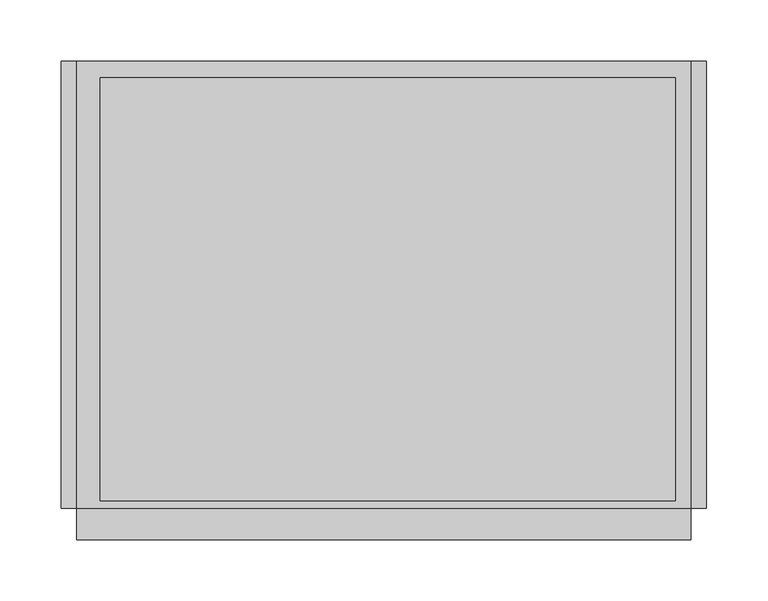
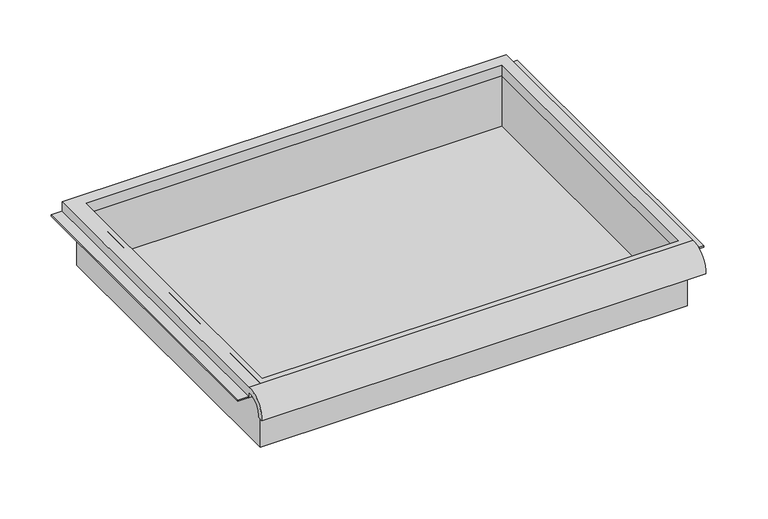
"""IFC4 building model written with IfcOpenShell, lengths in millimetres: furniture geometry."""

from ifc_helpers import new_model, si_unit, frame, origin, place, context, project, spatial, polyline, circle_curve, faceted_brep, source, transform, mapped, element, save
from ifc_brep_helpers import plane_surface, cylinder_surface, revolved_surface, advanced_brep


def furniture_e646b788(model_context):
    return source(origin(), model_context, "Body", "SolidModel", [
        advanced_brep(
        [(263.7474999, -195.297482, 937.4199118), (263.7474999, -188.9125, 937.4199118), (263.7474999, -169.8625, 955.681385), (263.7474999, -169.8625, 949.3313846), (263.7474999, 195.2625, 949.3313846), (263.7474999, 195.2625, 962.031385), (263.7474999, -169.8625, 962.031385), (-237.9025001, -195.297482, 937.4199118), (-237.9025001, -169.8625, 962.031385), (-237.9025001, 195.2625, 962.031385), (-237.9025001, 195.2625, 949.3313846), (-237.9025001, -169.8625, 949.3313846), (-237.9025001, -169.8625, 955.681385), (-237.9025001, -188.9125, 937.4199118), (251.0474878, 181.9275, 949.3313846), (-218.8095642, 181.9275, 949.3313846), (-218.8095642, -163.5125, 949.3313846), (251.0474878, -163.5125, 949.3313846), (-218.8095642, 181.9275, 962.031385), (251.0474878, 181.9275, 962.031385), (251.0474878, -163.5125, 962.031385), (-218.8095642, -163.5125, 962.031385)],
        [
            (0, 1),
            (1, 2, circle_curve(frame((263.7474999, -172.3404634, 939.1993222), z_axis=(-1.0, 0.0, 0.0), x_axis=(0.0, 1.0, 0.0)), 16.6672942)),
            (2, 3),
            (3, 4),
            (4, 5),
            (5, 6),
            (6, 0, circle_curve(frame((263.7474999, -172.4601678, 939.2672122), z_axis=(1.0, 0.0, 0.0), x_axis=(0.0, 1.0, 0.0)), 22.9119061)),
            (7, 8, circle_curve(frame((-237.9025001, -172.4601678, 939.2672122), z_axis=(-1.0, 0.0, 0.0), x_axis=(0.0, 1.0, 0.0)), 22.9119061)),
            (8, 9),
            (9, 10),
            (10, 11),
            (11, 12),
            (12, 13, circle_curve(frame((-237.9025001, -172.3404634, 939.1993222), z_axis=(1.0, 0.0, 0.0), x_axis=(0.0, 1.0, 0.0)), 16.6672942)),
            (13, 7),
            (0, 7),
            (13, 1),
            (12, 2),
            (11, 3),
            (10, 4),
            (14, 15),
            (15, 16),
            (16, 17),
            (17, 14),
            (9, 5),
            (8, 6),
            (18, 19),
            (19, 20),
            (20, 21),
            (21, 18),
            (14, 19),
            (18, 15),
            (21, 16),
            (20, 17),
        ],
        [
            plane_surface(frame((263.7474999, -195.297482, 937.4199118), z_axis=(1.0, 0.0, 0.0), x_axis=(0.0, 1.0, 0.0))),
            plane_surface(frame((-237.9025001, -195.297482, 937.4199118), z_axis=(-1.0, 0.0, 0.0), x_axis=(0.0, -1.0, 0.0))),
            plane_surface(frame((263.7474999, -195.297482, 937.4199118), z_axis=(0.0, 0.0, -1.0), x_axis=(-1.0, 0.0, 0.0))),
            revolved_surface(polyline([(-237.9025001, -155.67316920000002, 939.1993222), (263.7474999, -155.67316920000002, 939.1993222)]), (-237.9025001, -172.3404634, 939.1993222), (-1.0, 0.0, 0.0)),
            plane_surface(frame((263.7474999, -169.8625, 955.681385), z_axis=(0.0, -1.0, 0.0), x_axis=(-1.0, 0.0, 0.0))),
            plane_surface(frame((263.7474999, -169.8625, 949.3313846), z_axis=(0.0, 0.0, -1.0), x_axis=(-1.0, 0.0, 0.0))),
            plane_surface(frame((263.7474999, 195.2625, 949.3313846), z_axis=(0.0, 1.0, 0.0), x_axis=(-1.0, 0.0, 0.0))),
            plane_surface(frame((263.7474999, 195.2625, 962.031385), z_axis=(0.0, 0.0, 1.0), x_axis=(-1.0, 0.0, 0.0))),
            cylinder_surface(frame((-237.9025001, -172.4601678, 939.2672122), z_axis=(1.0, 0.0, 0.0), x_axis=(0.0, 1.0, 0.0)), 22.9119061),
            plane_surface(frame((251.0474878, 181.9275, 962.031385), z_axis=(0.0, -1.0, 0.0), x_axis=(0.0, 0.0, -1.0))),
            plane_surface(frame((-218.8095642, 181.9275, 962.031385), z_axis=(1.0, 0.0, 0.0), x_axis=(0.0, 0.0, -1.0))),
            plane_surface(frame((-218.8095642, -163.5125, 962.031385), z_axis=(0.0, 1.0, 0.0), x_axis=(0.0, 0.0, -1.0))),
            plane_surface(frame((251.0474878, -163.5125, 962.031385), z_axis=(-1.0, 0.0, 0.0), x_axis=(0.0, 0.0, -1.0))),
        ],
        [
            (0, [[1, 2, 3, 4, 5, 6, 7]]),
            (1, [[8, 9, 10, 11, 12, 13, 14]]),
            (2, [[-1, 15, -14, 16]]),
            (3, [[-2, -16, -13, 17]]),
            (4, [[-3, -17, -12, 18]]),
            (5, [[-4, -18, -11, 19], [20, 21, 22, 23]]),
            (6, [[-5, -19, -10, 24]]),
            (7, [[-6, -24, -9, 25], [26, 27, 28, 29]]),
            (8, [[-7, -25, -8, -15]]),
            (9, [[30, -26, 31, -20]]),
            (10, [[-31, -29, 32, -21]]),
            (11, [[-32, -28, 33, -22]]),
            (12, [[-30, -23, -33, -27]]),
        ],
    ),
        faceted_brep([(-225.2025001, -169.8625, 885.831385), (257.3974878, -169.8625, 885.831385), (257.3974878, -169.8625, 962.031385), (-225.2025001, -169.8625, 962.031385), (-225.2025001, 188.9125, 885.831385), (-225.2025001, 188.9125, 962.031385), (257.3974878, 188.9125, 962.031385), (257.3974878, 188.9125, 885.831385), (-218.8095642, 181.9275, 962.031385), (251.0474878, 181.9275, 962.031385), (251.0474878, -163.5125, 962.031385), (-218.8095642, -163.5125, 962.031385), (251.0474878, 181.9275, 889.006385), (-218.8095642, 181.9275, 889.006385), (-218.8095642, -163.5125, 889.006385), (251.0474878, -163.5125, 889.006385)], [[[0, 1, 2, 3]], [[4, 5, 6, 7]], [[1, 0, 4, 7]], [[2, 1, 7, 6]], [[3, 2, 6, 5], [8, 9, 10, 11]], [[0, 3, 5, 4]], [[12, 13, 14, 15]], [[13, 12, 9, 8]], [[14, 13, 8, 11]], [[15, 14, 11, 10]], [[12, 15, 10, 9]]]),
        faceted_brep([(-250.6025001, 195.2625, 949.3313846), (-250.6025001, 195.2625, 950.9188846), (-231.5525001, 195.2625, 950.9188846), (-231.5525001, 195.2625, 949.3313846), (-250.6025001, -169.8625, 949.3313846), (-231.5525001, -169.8625, 949.3313846), (-231.5525001, -169.8625, 950.9188846), (-250.6025001, -169.8625, 950.9188846)], [[[0, 1, 2, 3]], [[4, 5, 6, 7]], [[1, 0, 4, 7]], [[2, 1, 7, 6]], [[3, 2, 6, 5]], [[0, 3, 5, 4]]]),
        faceted_brep([(276.4474999, 195.2625, 949.3313846), (263.7474999, 195.2625, 949.3313846), (263.7474999, 195.2625, 950.9188846), (276.4474999, 195.2625, 950.9188846), (276.4474999, -169.8625, 949.3313846), (276.4474999, -169.8625, 950.9188846), (263.7474999, -169.8625, 950.9188846), (263.7474999, -169.8625, 949.3313846)], [[[0, 1, 2, 3]], [[4, 5, 6, 7]], [[1, 0, 4, 7]], [[2, 1, 7, 6]], [[3, 2, 6, 5]], [[0, 3, 5, 4]]]),
    ])


if __name__ == "__main__":
    model = new_model("IFC4")
    model_context = context("Model", 3, world=origin())
    ifc_project = project(units=[si_unit("LENGTHUNIT", "METRE", prefix="MILLI")], contexts=[model_context])
    site = spatial("IfcSite", under=ifc_project)
    building = spatial("IfcBuilding", under=site)
    placement = place(None, origin())
    furniture_shape = furniture_e646b788(model_context)
    element("IfcFurniture", 1, ObjectType="HermanMiller_Carts_CT501_Drawer : 3\"H x 15\"D x 20\"W", at=placement, inside=building, context=model_context, shape_type="MappedRepresentation", body=[
        mapped(furniture_shape, transform((0.0, 0.0, 0.0), x_axis=(1.0, 0.0, 0.0), y_axis=(0.0, 1.0, 0.0), z_axis=(0.0, 0.0, 1.0))),
    ])
    save(model, "model.ifc")
